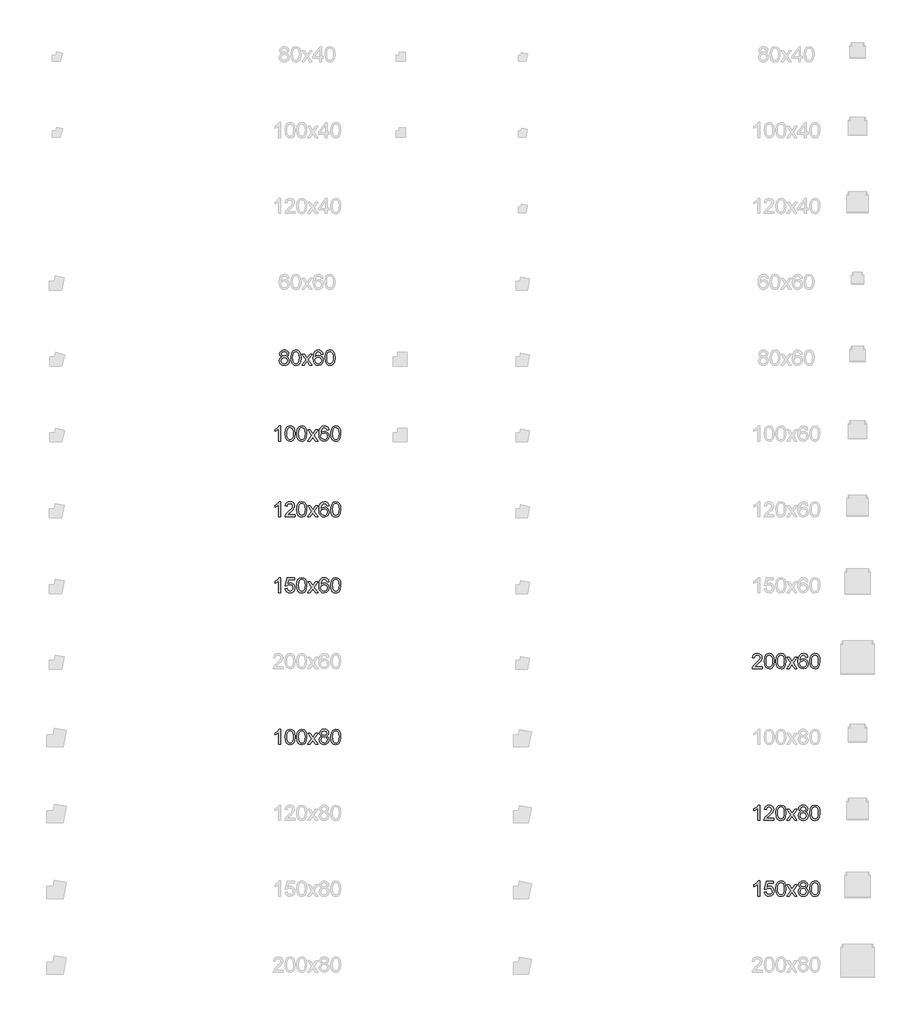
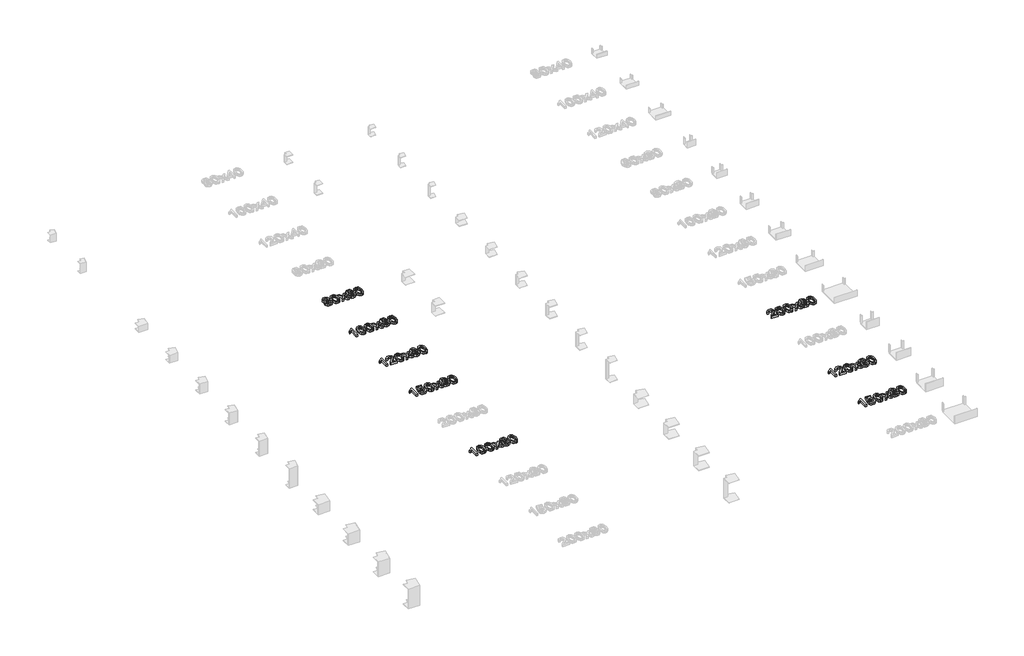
# One storey, part 16 of 28: 8 proxies.
"""IFC4 building model written with IfcOpenShell, lengths in millimetres."""

from ifc_helpers import new_model, si_unit, origin, origin_with_axes, place, context, project, spatial, polyline, outline, extrude, element, save

model = new_model("IFC4")

# Units and contexts
model_context = context("Model", 3, world=origin())
ifc_project = project(units=[si_unit("LENGTHUNIT", "METRE", prefix="MILLI")], contexts=[model_context])

# Site, building, storey
site = spatial("IfcSite", under=ifc_project)
building = spatial("IfcBuilding", under=site)
storey = spatial("IfcBuildingStorey", under=building, Name="Этаж 01", Elevation=0.0)

# Proxies
placement = place(None, origin())
element("IfcBuildingElementProxy", 1, Name="100 мм Arial", ObjectType="100 мм Arial", at=placement, inside=storey, context=model_context, shape_type="SweptSolid", body=[
    extrude(outline(polyline([(18077.1955345, -408.0058037), (18065.7544045, -400.2067054), (18062.0387963, -388.0665996), (18064.0621473, -378.2502817), (18070.1322002, -370.1384837), (18079.5683734, -364.6938302), (18091.6900851, -362.8789457), (18103.8853733, -364.7367497), (18113.4441738, -370.310162), (18119.6245913, -378.5507186), (18121.6847305, -388.4099561), (18118.0181733, -400.2434936), (18106.8958743, -408.0058037), (18120.2499907, -417.8527785), (18124.8239902, -434.1008999), (18122.5553845, -446.1061157), (18115.7495676, -456.0266668), (18105.2404053, -462.6853309), (18091.8617634, -464.9048856), (18078.4831215, -462.6761339), (18067.9739592, -455.9898786), (18061.1681423, -445.9742913), (18058.8995366, -433.7575434), (18063.6574771, -417.1292772), (18077.1955345, -408.0058037)]), holes=[polyline([(18074.5958351, -388.4344816), (18079.0472072, -398.2937191), (18092.0089162, -402.1196918), (18104.7131078, -398.3182445), (18109.1276917, -388.9985673), (18104.565955, -379.3477963), (18091.8617634, -375.4359844), (18079.1207836, -379.2619572), (18074.5958351, -388.4344816)]), polyline([(18071.4565754, -433.316085), (18073.5535028, -442.7706523), (18080.9724563, -449.8462493), (18091.9598653, -452.3478469), (18100.5069903, -451.0326687), (18106.9203997, -447.0871343), (18112.2669514, -433.7084925), (18106.7487215, -420.0723332), (18100.1881592, -416.0256312), (18091.5429323, -414.6767306), (18083.115369, -416.0072371), (18076.7663389, -419.9987568), (18071.4565754, -433.316085)])]), origin_with_axes(), (0.0, 0.0, 1.0), 20.0),
    extrude(outline(polyline([(18135.8113991, -413.9164411), (18139.5024818, -385.013179), (18150.4653652, -368.3481246), (18168.7736259, -362.8789457), (18183.4398547, -366.1163072), (18193.5688723, -375.4482472), (18199.4549843, -390.3106798), (18201.7358526, -413.9164411), (18198.0815581, -442.6970759), (18187.1554629, -459.3989185), (18178.9241032, -463.5283938), (18168.7736259, -464.9048856), (18155.7260778, -462.5136527), (18145.8177894, -455.3399538), (18138.3129967, -438.349937), (18135.8113991, -413.9164411)]), holes=[polyline([(18148.3684379, -413.8919156), (18149.8399658, -433.6441131), (18154.2545498, -445.0760461), (18160.8273748, -450.5298967), (18168.7736259, -452.3478469), (18176.719877, -450.5237653), (18183.2927019, -445.0515206), (18187.7072859, -433.6134563), (18189.1788139, -413.8919156), (18187.7563368, -394.5842423), (18183.4889057, -383.0634045), (18176.9283434, -377.3428394), (18168.6264731, -375.4359844), (18160.7660611, -377.1159789), (18154.4507535, -382.1559622), (18149.8890168, -394.3941699), (18148.3684379, -413.8919156)])]), origin_with_axes(), (0.0, 0.0, 1.0), 20.0),
    extrude(outline(polyline([(18208.014372, -463.3352558), (18234.8452322, -426.2527507), (18209.5840019, -389.562653), (18224.6916891, -389.562653), (18236.8808459, -407.2209888), (18242.5707541, -415.5596474), (18247.5003728, -408.7415677), (18261.3817868, -389.562653), (18276.489474, -389.562653), (18249.9529195, -426.2527507), (18275.5084554, -463.3352558), (18260.4007681, -463.3352558), (18245.0233007, -441.0416069), (18242.2028721, -436.9703795), (18223.1220593, -463.3352558), (18208.014372, -463.3352558)])), origin_with_axes(), (0.0, 0.0, 1.0), 20.0),
    extrude(outline(polyline([(18347.7114283, -389.562653), (18335.1543895, -391.1322829), (18330.3964491, -380.6599088), (18317.8148848, -375.4359844), (18306.4841194, -378.4771422), (18297.9124689, -389.8937468), (18294.3440135, -412.2732349), (18305.4172616, -402.2545819), (18319.13926, -398.9804321), (18330.7398056, -401.2183809), (18340.4764157, -407.9322273), (18347.0798976, -418.1900036), (18349.2810582, -431.0597421), (18345.1362543, -448.3869841), (18333.7319125, -460.6497172), (18317.2753246, -464.9048856), (18303.0290943, -462.084457), (18291.6830004, -453.6231711), (18284.2609812, -438.6871621), (18281.7869748, -416.4425641), (18284.533827, -391.4327198), (18292.7743837, -374.3323384), (18304.0254414, -365.7422938), (18318.5996998, -362.8789457), (18329.6177655, -364.6509106), (18338.440802, -369.9668054), (18344.6212196, -378.4096972), (18347.7114283, -389.562653)]), holes=[polyline([(18294.3440135, -430.8635384), (18297.2502813, -441.7405827), (18304.9758032, -449.6377828), (18316.2943059, -452.3478469), (18324.5808479, -450.9437639), (18331.0954249, -446.7315151), (18335.3168708, -440.1096392), (18336.7240194, -431.476675), (18335.3352649, -423.1901331), (18331.1690013, -416.8717598), (18324.5440597, -412.8710431), (18315.7792711, -411.5374709), (18300.5857447, -416.8717598), (18295.9044463, -423.0368489), (18294.3440135, -430.8635384)])]), origin_with_axes(), (0.0, 0.0, 1.0), 20.0),
    extrude(outline(polyline([(18360.2684671, -413.9164411), (18363.9595498, -385.013179), (18374.9224332, -368.3481246), (18393.2306938, -362.8789457), (18407.8969227, -366.1163072), (18418.0259403, -375.4482472), (18423.9120522, -390.3106798), (18426.1929206, -413.9164411), (18422.5386261, -442.6970759), (18411.6125309, -459.3989185), (18403.3811712, -463.5283938), (18393.2306938, -464.9048856), (18380.1831458, -462.5136527), (18370.2748573, -455.3399538), (18362.7700646, -438.349937), (18360.2684671, -413.9164411)]), holes=[polyline([(18372.8255058, -413.8919156), (18374.2970338, -433.6441131), (18378.7116178, -445.0760461), (18385.2844428, -450.5298967), (18393.2306938, -452.3478469), (18401.1769449, -450.5237653), (18407.7497699, -445.0515206), (18412.1643539, -433.6134563), (18413.6358818, -413.8919156), (18412.2134048, -394.5842423), (18407.9459737, -383.0634045), (18401.3854114, -377.3428394), (18393.0835411, -375.4359844), (18385.2231291, -377.1159789), (18378.9078215, -382.1559622), (18374.3460848, -394.3941699), (18372.8255058, -413.8919156)])]), origin_with_axes(), (0.0, 0.0, 1.0), 20.0),
])
element("IfcBuildingElementProxy", 2, Name="100 мм Arial", ObjectType="100 мм Arial", at=placement, inside=storey, context=model_context, shape_type="SweptSolid", body=[
    extrude(outline(polyline([(18067.5325008, -1463.3352558), (18054.975462, -1463.3352558), (18054.975462, -1385.0499672), (18043.0806108, -1393.5235158), (18029.8613845, -1399.8633489), (18029.8613845, -1387.9930232), (18048.267747, -1376.2453248), (18059.4390969, -1362.8789457), (18067.5325008, -1362.8789457), (18067.5325008, -1463.3352558)])), origin_with_axes(), (0.0, 0.0, 1.0), 20.0),
    extrude(outline(polyline([(18161.7102916, -1450.778217), (18161.7102916, -1463.3352558), (18095.785838, -1463.3352558), (18097.1347387, -1454.6777662), (18104.7621587, -1441.3481752), (18120.4829826, -1426.7923109), (18142.1634949, -1405.8720882), (18147.5836229, -1391.6473177), (18142.4700632, -1380.1326112), (18129.1159468, -1375.4359844), (18115.1977446, -1380.0222466), (18109.9125066, -1392.7019127), (18097.3554679, -1391.1322829), (18100.3996914, -1378.9860457), (18106.9817134, -1370.1139582), (18116.7581774, -1364.6876988), (18129.3857269, -1362.8789457), (18142.1052469, -1364.8900339), (18151.8633168, -1370.9232986), (18158.0713255, -1379.9364075), (18160.1406617, -1390.8870282), (18157.9088443, -1402.7941421), (18150.4898907, -1415.1059262), (18132.5004611, -1432.3105409), (18118.0549615, -1444.389333), (18112.3895787, -1450.778217), (18161.7102916, -1450.778217)])), origin_with_axes(), (0.0, 0.0, 1.0), 20.0),
    extrude(outline(polyline([(18174.2673303, -1413.9164411), (18177.958413, -1385.013179), (18188.9212965, -1368.3481246), (18207.2295571, -1362.8789457), (18221.895786, -1366.1163072), (18232.0248036, -1375.4482472), (18237.9109155, -1390.3106798), (18240.1917839, -1413.9164411), (18236.5374894, -1442.6970759), (18225.6113941, -1459.3989185), (18217.3800345, -1463.5283938), (18207.2295571, -1464.9048856), (18194.182009, -1462.5136527), (18184.2737206, -1455.3399538), (18176.7689279, -1438.349937), (18174.2673303, -1413.9164411)]), holes=[polyline([(18186.8243691, -1413.8919156), (18188.2958971, -1433.6441131), (18192.710481, -1445.0760461), (18199.283306, -1450.5298967), (18207.2295571, -1452.3478469), (18215.1758082, -1450.5237653), (18221.7486332, -1445.0515206), (18226.1632171, -1433.6134563), (18227.6347451, -1413.8919156), (18226.212268, -1394.5842423), (18221.9448369, -1383.0634045), (18215.3842746, -1377.3428394), (18207.0824043, -1375.4359844), (18199.2219923, -1377.1159789), (18192.9066847, -1382.1559622), (18188.344948, -1394.3941699), (18186.8243691, -1413.8919156)])]), origin_with_axes(), (0.0, 0.0, 1.0), 20.0),
    extrude(outline(polyline([(18246.4703032, -1463.3352558), (18273.3011634, -1426.2527507), (18248.0399331, -1389.562653), (18263.1476204, -1389.562653), (18275.3367771, -1407.2209888), (18281.0266853, -1415.5596474), (18285.9563041, -1408.7415677), (18299.837718, -1389.562653), (18314.9454053, -1389.562653), (18288.4088507, -1426.2527507), (18313.9643866, -1463.3352558), (18298.8566994, -1463.3352558), (18283.479232, -1441.0416069), (18280.6588033, -1436.9703795), (18261.5779905, -1463.3352558), (18246.4703032, -1463.3352558)])), origin_with_axes(), (0.0, 0.0, 1.0), 20.0),
    extrude(outline(polyline([(18386.1673595, -1389.562653), (18373.6103208, -1391.1322829), (18368.8523803, -1380.6599088), (18356.2708161, -1375.4359844), (18344.9400506, -1378.4771422), (18336.3684001, -1389.8937468), (18332.7999448, -1412.2732349), (18343.8731928, -1402.2545819), (18357.5951912, -1398.9804321), (18369.1957368, -1401.2183809), (18378.932347, -1407.9322273), (18385.5358288, -1418.1900036), (18387.7369894, -1431.0597421), (18383.5921856, -1448.3869841), (18372.1878437, -1460.6497172), (18355.7312558, -1464.9048856), (18341.4850255, -1462.084457), (18330.1389317, -1453.6231711), (18322.7169124, -1438.6871621), (18320.242906, -1416.4425641), (18322.9897582, -1391.4327198), (18331.2303149, -1374.3323384), (18342.4813726, -1365.7422938), (18357.055631, -1362.8789457), (18368.0736967, -1364.6509106), (18376.8967333, -1369.9668054), (18383.0771508, -1378.4096972), (18386.1673595, -1389.562653)]), holes=[polyline([(18332.7999448, -1430.8635384), (18335.7062125, -1441.7405827), (18343.4317344, -1449.6377828), (18354.7502372, -1452.3478469), (18363.0367791, -1450.9437639), (18369.5513561, -1446.7315151), (18373.772802, -1440.1096392), (18375.1799506, -1431.476675), (18373.7911961, -1423.1901331), (18369.6249325, -1416.8717598), (18362.9999909, -1412.8710431), (18354.2352024, -1411.5374709), (18339.041676, -1416.8717598), (18334.3603776, -1423.0368489), (18332.7999448, -1430.8635384)])]), origin_with_axes(), (0.0, 0.0, 1.0), 20.0),
    extrude(outline(polyline([(18398.7243983, -1413.9164411), (18402.415481, -1385.013179), (18413.3783645, -1368.3481246), (18431.6866251, -1362.8789457), (18446.352854, -1366.1163072), (18456.4818716, -1375.4482472), (18462.3679835, -1390.3106798), (18464.6488518, -1413.9164411), (18460.9945574, -1442.6970759), (18450.0684621, -1459.3989185), (18441.8371025, -1463.5283938), (18431.6866251, -1464.9048856), (18418.639077, -1462.5136527), (18408.7307886, -1455.3399538), (18401.2259959, -1438.349937), (18398.7243983, -1413.9164411)]), holes=[polyline([(18411.2814371, -1413.8919156), (18412.7529651, -1433.6441131), (18417.167549, -1445.0760461), (18423.740374, -1450.5298967), (18431.6866251, -1452.3478469), (18439.6328762, -1450.5237653), (18446.2057012, -1445.0515206), (18450.6202851, -1433.6134563), (18452.0918131, -1413.8919156), (18450.669336, -1394.5842423), (18446.4019049, -1383.0634045), (18439.8413426, -1377.3428394), (18431.5394723, -1375.4359844), (18423.6790603, -1377.1159789), (18417.3637527, -1382.1559622), (18412.802016, -1394.3941699), (18411.2814371, -1413.8919156)])]), origin_with_axes(), (0.0, 0.0, 1.0), 20.0),
])
element("IfcBuildingElementProxy", 3, Name="100 мм Arial", ObjectType="100 мм Arial", at=placement, inside=storey, context=model_context, shape_type="SweptSolid", body=[
    extrude(outline(polyline([(18067.5325008, -1963.3352558), (18054.975462, -1963.3352558), (18054.975462, -1885.0499672), (18043.0806108, -1893.5235158), (18029.8613845, -1899.8633489), (18029.8613845, -1887.9930232), (18048.267747, -1876.2453248), (18059.4390969, -1862.8789457), (18067.5325008, -1862.8789457), (18067.5325008, -1963.3352558)])), origin_with_axes(), (0.0, 0.0, 1.0), 20.0),
    extrude(outline(polyline([(18097.3554679, -1936.6515484), (18109.9125066, -1935.0819186), (18116.2400769, -1948.0191021), (18129.3612014, -1952.3478469), (18138.3620476, -1950.8425964), (18145.1065508, -1946.3268449), (18149.3187997, -1939.3217586), (18150.7228826, -1930.3485036), (18145.4621701, -1915.43702), (18138.8556226, -1911.3351358), (18129.5574052, -1909.967841), (18118.5332081, -1912.1506075), (18111.4821365, -1917.8159903), (18098.9250977, -1916.2463604), (18109.9125066, -1864.4485755), (18158.5710319, -1864.4485755), (18158.5710319, -1877.0056143), (18120.0660497, -1877.0056143), (18114.6949726, -1904.6703403), (18123.6651619, -1899.2256868), (18133.0645469, -1897.4108023), (18144.7969168, -1899.6610138), (18154.5365926, -1906.4116484), (18161.0940892, -1916.7000815), (18163.2799214, -1929.5636886), (18161.3117527, -1942.1207274), (18155.4072467, -1952.8628817), (18144.1010067, -1961.8943847), (18129.3121505, -1964.9048856), (18116.9789066, -1962.9704395), (18107.1533917, -1957.167101), (18100.4180855, -1948.1693206), (18097.3554679, -1936.6515484)])), origin_with_axes(), (0.0, 0.0, 1.0), 20.0),
    extrude(outline(polyline([(18174.2673303, -1913.9164411), (18177.958413, -1885.013179), (18188.9212965, -1868.3481246), (18207.2295571, -1862.8789457), (18221.895786, -1866.1163072), (18232.0248036, -1875.4482472), (18237.9109155, -1890.3106798), (18240.1917839, -1913.9164411), (18236.5374894, -1942.6970759), (18225.6113941, -1959.3989185), (18217.3800345, -1963.5283938), (18207.2295571, -1964.9048856), (18194.182009, -1962.5136527), (18184.2737206, -1955.3399538), (18176.7689279, -1938.349937), (18174.2673303, -1913.9164411)]), holes=[polyline([(18186.8243691, -1913.8919156), (18188.2958971, -1933.6441131), (18192.710481, -1945.0760461), (18199.283306, -1950.5298967), (18207.2295571, -1952.3478469), (18215.1758082, -1950.5237653), (18221.7486332, -1945.0515206), (18226.1632171, -1933.6134563), (18227.6347451, -1913.8919156), (18226.212268, -1894.5842423), (18221.9448369, -1883.0634045), (18215.3842746, -1877.3428394), (18207.0824043, -1875.4359844), (18199.2219923, -1877.1159789), (18192.9066847, -1882.1559622), (18188.344948, -1894.3941699), (18186.8243691, -1913.8919156)])]), origin_with_axes(), (0.0, 0.0, 1.0), 20.0),
    extrude(outline(polyline([(18246.4703032, -1963.3352558), (18273.3011634, -1926.2527507), (18248.0399331, -1889.562653), (18263.1476204, -1889.562653), (18275.3367771, -1907.2209888), (18281.0266853, -1915.5596474), (18285.9563041, -1908.7415677), (18299.837718, -1889.562653), (18314.9454053, -1889.562653), (18288.4088507, -1926.2527507), (18313.9643866, -1963.3352558), (18298.8566994, -1963.3352558), (18283.479232, -1941.0416069), (18280.6588033, -1936.9703795), (18261.5779905, -1963.3352558), (18246.4703032, -1963.3352558)])), origin_with_axes(), (0.0, 0.0, 1.0), 20.0),
    extrude(outline(polyline([(18386.1673595, -1889.562653), (18373.6103208, -1891.1322829), (18368.8523803, -1880.6599088), (18356.2708161, -1875.4359844), (18344.9400506, -1878.4771422), (18336.3684001, -1889.8937468), (18332.7999448, -1912.2732349), (18343.8731928, -1902.2545819), (18357.5951912, -1898.9804321), (18369.1957368, -1901.2183809), (18378.932347, -1907.9322273), (18385.5358288, -1918.1900036), (18387.7369894, -1931.0597421), (18383.5921856, -1948.3869841), (18372.1878437, -1960.6497172), (18355.7312558, -1964.9048856), (18341.4850255, -1962.084457), (18330.1389317, -1953.6231711), (18322.7169124, -1938.6871621), (18320.242906, -1916.4425641), (18322.9897582, -1891.4327198), (18331.2303149, -1874.3323384), (18342.4813726, -1865.7422938), (18357.055631, -1862.8789457), (18368.0736967, -1864.6509106), (18376.8967333, -1869.9668054), (18383.0771508, -1878.4096972), (18386.1673595, -1889.562653)]), holes=[polyline([(18332.7999448, -1930.8635384), (18335.7062125, -1941.7405827), (18343.4317344, -1949.6377828), (18354.7502372, -1952.3478469), (18363.0367791, -1950.9437639), (18369.5513561, -1946.7315151), (18373.772802, -1940.1096392), (18375.1799506, -1931.476675), (18373.7911961, -1923.1901331), (18369.6249325, -1916.8717598), (18362.9999909, -1912.8710431), (18354.2352024, -1911.5374709), (18339.041676, -1916.8717598), (18334.3603776, -1923.0368489), (18332.7999448, -1930.8635384)])]), origin_with_axes(), (0.0, 0.0, 1.0), 20.0),
    extrude(outline(polyline([(18398.7243983, -1913.9164411), (18402.415481, -1885.013179), (18413.3783645, -1868.3481246), (18431.6866251, -1862.8789457), (18446.352854, -1866.1163072), (18456.4818716, -1875.4482472), (18462.3679835, -1890.3106798), (18464.6488518, -1913.9164411), (18460.9945574, -1942.6970759), (18450.0684621, -1959.3989185), (18441.8371025, -1963.5283938), (18431.6866251, -1964.9048856), (18418.639077, -1962.5136527), (18408.7307886, -1955.3399538), (18401.2259959, -1938.349937), (18398.7243983, -1913.9164411)]), holes=[polyline([(18411.2814371, -1913.8919156), (18412.7529651, -1933.6441131), (18417.167549, -1945.0760461), (18423.740374, -1950.5298967), (18431.6866251, -1952.3478469), (18439.6328762, -1950.5237653), (18446.2057012, -1945.0515206), (18450.6202851, -1933.6134563), (18452.0918131, -1913.8919156), (18450.669336, -1894.5842423), (18446.4019049, -1883.0634045), (18439.8413426, -1877.3428394), (18431.5394723, -1875.4359844), (18423.6790603, -1877.1159789), (18417.3637527, -1882.1559622), (18412.802016, -1894.3941699), (18411.2814371, -1913.8919156)])]), origin_with_axes(), (0.0, 0.0, 1.0), 20.0),
])
element("IfcBuildingElementProxy", 4, Name="100 мм Arial", ObjectType="100 мм Arial", at=placement, inside=storey, context=model_context, shape_type="SweptSolid", body=[
    extrude(outline(polyline([(18067.5325008, -2963.3352558), (18054.975462, -2963.3352558), (18054.975462, -2885.0499672), (18043.0806108, -2893.5235158), (18029.8613845, -2899.8633489), (18029.8613845, -2887.9930232), (18048.267747, -2876.2453248), (18059.4390969, -2862.8789457), (18067.5325008, -2862.8789457), (18067.5325008, -2963.3352558)])), origin_with_axes(), (0.0, 0.0, 1.0), 20.0),
    extrude(outline(polyline([(18097.3554679, -2913.9164411), (18101.0465505, -2885.013179), (18112.009434, -2868.3481246), (18130.3176946, -2862.8789457), (18144.9839235, -2866.1163072), (18155.1129411, -2875.4482472), (18160.999053, -2890.3106798), (18163.2799214, -2913.9164411), (18159.6256269, -2942.6970759), (18148.6995317, -2959.3989185), (18140.468172, -2963.5283938), (18130.3176946, -2964.9048856), (18117.2701465, -2962.5136527), (18107.3618581, -2955.3399538), (18099.8570654, -2938.349937), (18097.3554679, -2913.9164411)]), holes=[polyline([(18109.9125066, -2913.8919156), (18111.3840346, -2933.6441131), (18115.7986186, -2945.0760461), (18122.3714435, -2950.5298967), (18130.3176946, -2952.3478469), (18138.2639457, -2950.5237653), (18144.8367707, -2945.0515206), (18149.2513546, -2933.6134563), (18150.7228826, -2913.8919156), (18149.3004056, -2894.5842423), (18145.0329744, -2883.0634045), (18138.4724122, -2877.3428394), (18130.1705418, -2875.4359844), (18122.3101299, -2877.1159789), (18115.9948223, -2882.1559622), (18111.4330855, -2894.3941699), (18109.9125066, -2913.8919156)])]), origin_with_axes(), (0.0, 0.0, 1.0), 20.0),
    extrude(outline(polyline([(18174.2673303, -2913.9164411), (18177.958413, -2885.013179), (18188.9212965, -2868.3481246), (18207.2295571, -2862.8789457), (18221.895786, -2866.1163072), (18232.0248036, -2875.4482472), (18237.9109155, -2890.3106798), (18240.1917839, -2913.9164411), (18236.5374894, -2942.6970759), (18225.6113941, -2959.3989185), (18217.3800345, -2963.5283938), (18207.2295571, -2964.9048856), (18194.182009, -2962.5136527), (18184.2737206, -2955.3399538), (18176.7689279, -2938.349937), (18174.2673303, -2913.9164411)]), holes=[polyline([(18186.8243691, -2913.8919156), (18188.2958971, -2933.6441131), (18192.710481, -2945.0760461), (18199.283306, -2950.5298967), (18207.2295571, -2952.3478469), (18215.1758082, -2950.5237653), (18221.7486332, -2945.0515206), (18226.1632171, -2933.6134563), (18227.6347451, -2913.8919156), (18226.212268, -2894.5842423), (18221.9448369, -2883.0634045), (18215.3842746, -2877.3428394), (18207.0824043, -2875.4359844), (18199.2219923, -2877.1159789), (18192.9066847, -2882.1559622), (18188.344948, -2894.3941699), (18186.8243691, -2913.8919156)])]), origin_with_axes(), (0.0, 0.0, 1.0), 20.0),
    extrude(outline(polyline([(18246.4703032, -2963.3352558), (18273.3011634, -2926.2527507), (18248.0399331, -2889.562653), (18263.1476204, -2889.562653), (18275.3367771, -2907.2209888), (18281.0266853, -2915.5596474), (18285.9563041, -2908.7415677), (18299.837718, -2889.562653), (18314.9454053, -2889.562653), (18288.4088507, -2926.2527507), (18313.9643866, -2963.3352558), (18298.8566994, -2963.3352558), (18283.479232, -2941.0416069), (18280.6588033, -2936.9703795), (18261.5779905, -2963.3352558), (18246.4703032, -2963.3352558)])), origin_with_axes(), (0.0, 0.0, 1.0), 20.0),
    extrude(outline(polyline([(18340.1085337, -2908.0058037), (18328.6674037, -2900.2067054), (18324.9517955, -2888.0665996), (18326.9751465, -2878.2502817), (18333.0451994, -2870.1384837), (18342.4813726, -2864.6938302), (18354.6030844, -2862.8789457), (18366.7983725, -2864.7367497), (18376.357173, -2870.310162), (18382.5375905, -2878.5507186), (18384.5977297, -2888.4099561), (18380.9311725, -2900.2434936), (18369.8088735, -2908.0058037), (18383.1629899, -2917.8527785), (18387.7369894, -2934.1008999), (18385.4683838, -2946.1061157), (18378.6625668, -2956.0266668), (18368.1534045, -2962.6853309), (18354.7747626, -2964.9048856), (18341.3961207, -2962.6761339), (18330.8869584, -2955.9898786), (18324.0811415, -2945.9742913), (18321.8125359, -2933.7575434), (18326.5704763, -2917.1292772), (18340.1085337, -2908.0058037)]), holes=[polyline([(18334.3695746, -2933.316085), (18336.466502, -2942.7706523), (18343.8854556, -2949.8462493), (18354.8728645, -2952.3478469), (18363.4199895, -2951.0326687), (18369.833399, -2947.0871343), (18375.1799506, -2933.7084925), (18369.6617207, -2920.0723332), (18363.1011584, -2916.0256312), (18354.4559316, -2914.6767306), (18346.0283682, -2916.0072371), (18339.6793381, -2919.9987568), (18334.3695746, -2933.316085)]), polyline([(18337.5088343, -2888.4344816), (18341.9602065, -2898.2937191), (18354.9219154, -2902.1196918), (18367.626107, -2898.3182445), (18372.0406909, -2888.9985673), (18367.4789542, -2879.3477963), (18354.7747626, -2875.4359844), (18342.0337829, -2879.2619572), (18337.5088343, -2888.4344816)])]), origin_with_axes(), (0.0, 0.0, 1.0), 20.0),
    extrude(outline(polyline([(18398.7243983, -2913.9164411), (18402.415481, -2885.013179), (18413.3783645, -2868.3481246), (18431.6866251, -2862.8789457), (18446.352854, -2866.1163072), (18456.4818716, -2875.4482472), (18462.3679835, -2890.3106798), (18464.6488518, -2913.9164411), (18460.9945574, -2942.6970759), (18450.0684621, -2959.3989185), (18441.8371025, -2963.5283938), (18431.6866251, -2964.9048856), (18418.639077, -2962.5136527), (18408.7307886, -2955.3399538), (18401.2259959, -2938.349937), (18398.7243983, -2913.9164411)]), holes=[polyline([(18411.2814371, -2913.8919156), (18412.7529651, -2933.6441131), (18417.167549, -2945.0760461), (18423.740374, -2950.5298967), (18431.6866251, -2952.3478469), (18439.6328762, -2950.5237653), (18446.2057012, -2945.0515206), (18450.6202851, -2933.6134563), (18452.0918131, -2913.8919156), (18450.669336, -2894.5842423), (18446.4019049, -2883.0634045), (18439.8413426, -2877.3428394), (18431.5394723, -2875.4359844), (18423.6790603, -2877.1159789), (18417.3637527, -2882.1559622), (18412.802016, -2894.3941699), (18411.2814371, -2913.8919156)])]), origin_with_axes(), (0.0, 0.0, 1.0), 20.0),
])
element("IfcBuildingElementProxy", 5, Name="100 мм Arial", ObjectType="100 мм Arial", at=placement, inside=storey, context=model_context, shape_type="SweptSolid", body=[
    extrude(outline(polyline([(18067.5325008, -963.3352558), (18054.975462, -963.3352558), (18054.975462, -885.0499672), (18043.0806108, -893.5235158), (18029.8613845, -899.8633489), (18029.8613845, -887.9930232), (18048.267747, -876.2453248), (18059.4390969, -862.8789457), (18067.5325008, -862.8789457), (18067.5325008, -963.3352558)])), origin_with_axes(), (0.0, 0.0, 1.0), 20.0),
    extrude(outline(polyline([(18097.3554679, -913.9164411), (18101.0465505, -885.013179), (18112.009434, -868.3481246), (18130.3176946, -862.8789457), (18144.9839235, -866.1163072), (18155.1129411, -875.4482472), (18160.999053, -890.3106798), (18163.2799214, -913.9164411), (18159.6256269, -942.6970759), (18148.6995317, -959.3989185), (18140.468172, -963.5283938), (18130.3176946, -964.9048856), (18117.2701465, -962.5136527), (18107.3618581, -955.3399538), (18099.8570654, -938.349937), (18097.3554679, -913.9164411)]), holes=[polyline([(18109.9125066, -913.8919156), (18111.3840346, -933.6441131), (18115.7986186, -945.0760461), (18122.3714435, -950.5298967), (18130.3176946, -952.3478469), (18138.2639457, -950.5237653), (18144.8367707, -945.0515206), (18149.2513546, -933.6134563), (18150.7228826, -913.8919156), (18149.3004056, -894.5842423), (18145.0329744, -883.0634045), (18138.4724122, -877.3428394), (18130.1705418, -875.4359844), (18122.3101299, -877.1159789), (18115.9948223, -882.1559622), (18111.4330855, -894.3941699), (18109.9125066, -913.8919156)])]), origin_with_axes(), (0.0, 0.0, 1.0), 20.0),
    extrude(outline(polyline([(18174.2673303, -913.9164411), (18177.958413, -885.013179), (18188.9212965, -868.3481246), (18207.2295571, -862.8789457), (18221.895786, -866.1163072), (18232.0248036, -875.4482472), (18237.9109155, -890.3106798), (18240.1917839, -913.9164411), (18236.5374894, -942.6970759), (18225.6113941, -959.3989185), (18217.3800345, -963.5283938), (18207.2295571, -964.9048856), (18194.182009, -962.5136527), (18184.2737206, -955.3399538), (18176.7689279, -938.349937), (18174.2673303, -913.9164411)]), holes=[polyline([(18186.8243691, -913.8919156), (18188.2958971, -933.6441131), (18192.710481, -945.0760461), (18199.283306, -950.5298967), (18207.2295571, -952.3478469), (18215.1758082, -950.5237653), (18221.7486332, -945.0515206), (18226.1632171, -933.6134563), (18227.6347451, -913.8919156), (18226.212268, -894.5842423), (18221.9448369, -883.0634045), (18215.3842746, -877.3428394), (18207.0824043, -875.4359844), (18199.2219923, -877.1159789), (18192.9066847, -882.1559622), (18188.344948, -894.3941699), (18186.8243691, -913.8919156)])]), origin_with_axes(), (0.0, 0.0, 1.0), 20.0),
    extrude(outline(polyline([(18246.4703032, -963.3352558), (18273.3011634, -926.2527507), (18248.0399331, -889.562653), (18263.1476204, -889.562653), (18275.3367771, -907.2209888), (18281.0266853, -915.5596474), (18285.9563041, -908.7415677), (18299.837718, -889.562653), (18314.9454053, -889.562653), (18288.4088507, -926.2527507), (18313.9643866, -963.3352558), (18298.8566994, -963.3352558), (18283.479232, -941.0416069), (18280.6588033, -936.9703795), (18261.5779905, -963.3352558), (18246.4703032, -963.3352558)])), origin_with_axes(), (0.0, 0.0, 1.0), 20.0),
    extrude(outline(polyline([(18386.1673595, -889.562653), (18373.6103208, -891.1322829), (18368.8523803, -880.6599088), (18356.2708161, -875.4359844), (18344.9400506, -878.4771422), (18336.3684001, -889.8937468), (18332.7999448, -912.2732349), (18343.8731928, -902.2545819), (18357.5951912, -898.9804321), (18369.1957368, -901.2183809), (18378.932347, -907.9322273), (18385.5358288, -918.1900036), (18387.7369894, -931.0597421), (18383.5921856, -948.3869841), (18372.1878437, -960.6497172), (18355.7312558, -964.9048856), (18341.4850255, -962.084457), (18330.1389317, -953.6231711), (18322.7169124, -938.6871621), (18320.242906, -916.4425641), (18322.9897582, -891.4327198), (18331.2303149, -874.3323384), (18342.4813726, -865.7422938), (18357.055631, -862.8789457), (18368.0736967, -864.6509106), (18376.8967333, -869.9668054), (18383.0771508, -878.4096972), (18386.1673595, -889.562653)]), holes=[polyline([(18332.7999448, -930.8635384), (18335.7062125, -941.7405827), (18343.4317344, -949.6377828), (18354.7502372, -952.3478469), (18363.0367791, -950.9437639), (18369.5513561, -946.7315151), (18373.772802, -940.1096392), (18375.1799506, -931.476675), (18373.7911961, -923.1901331), (18369.6249325, -916.8717598), (18362.9999909, -912.8710431), (18354.2352024, -911.5374709), (18339.041676, -916.8717598), (18334.3603776, -923.0368489), (18332.7999448, -930.8635384)])]), origin_with_axes(), (0.0, 0.0, 1.0), 20.0),
    extrude(outline(polyline([(18398.7243983, -913.9164411), (18402.415481, -885.013179), (18413.3783645, -868.3481246), (18431.6866251, -862.8789457), (18446.352854, -866.1163072), (18456.4818716, -875.4482472), (18462.3679835, -890.3106798), (18464.6488518, -913.9164411), (18460.9945574, -942.6970759), (18450.0684621, -959.3989185), (18441.8371025, -963.5283938), (18431.6866251, -964.9048856), (18418.639077, -962.5136527), (18408.7307886, -955.3399538), (18401.2259959, -938.349937), (18398.7243983, -913.9164411)]), holes=[polyline([(18411.2814371, -913.8919156), (18412.7529651, -933.6441131), (18417.167549, -945.0760461), (18423.740374, -950.5298967), (18431.6866251, -952.3478469), (18439.6328762, -950.5237653), (18446.2057012, -945.0515206), (18450.6202851, -933.6134563), (18452.0918131, -913.8919156), (18450.669336, -894.5842423), (18446.4019049, -883.0634045), (18439.8413426, -877.3428394), (18431.5394723, -875.4359844), (18423.6790603, -877.1159789), (18417.3637527, -882.1559622), (18412.802016, -894.3941699), (18411.2814371, -913.8919156)])]), origin_with_axes(), (0.0, 0.0, 1.0), 20.0),
])
element("IfcBuildingElementProxy", 6, Name="100 мм Arial", ObjectType="100 мм Arial", at=placement, inside=storey, context=model_context, shape_type="SweptSolid", body=[
    extrude(outline(polyline([(21244.7984291, -2450.778217), (21244.7984291, -2463.3352558), (21178.8739756, -2463.3352558), (21180.2228762, -2454.6777662), (21187.8502962, -2441.3481752), (21203.5711202, -2426.7923109), (21225.2516324, -2405.8720882), (21230.6717605, -2391.6473177), (21225.5582007, -2380.1326112), (21212.2040843, -2375.4359844), (21198.2858822, -2380.0222466), (21193.0006442, -2392.7019127), (21180.4436054, -2391.1322829), (21183.4878289, -2378.9860457), (21190.0698509, -2370.1139582), (21199.846315, -2364.6876988), (21212.4738644, -2362.8789457), (21225.1933844, -2364.8900339), (21234.9514544, -2370.9232986), (21241.159463, -2379.9364075), (21243.2287992, -2390.8870282), (21240.9969818, -2402.7941421), (21233.5780282, -2415.1059262), (21215.5885987, -2432.3105409), (21201.143099, -2444.389333), (21195.4777163, -2450.778217), (21244.7984291, -2450.778217)])), origin_with_axes(), (0.0, 0.0, 1.0), 20.0),
    extrude(outline(polyline([(21257.3554679, -2413.9164411), (21261.0465505, -2385.013179), (21272.009434, -2368.3481246), (21290.3176946, -2362.8789457), (21304.9839235, -2366.1163072), (21315.1129411, -2375.4482472), (21320.999053, -2390.3106798), (21323.2799214, -2413.9164411), (21319.6256269, -2442.6970759), (21308.6995317, -2459.3989185), (21300.468172, -2463.5283938), (21290.3176946, -2464.9048856), (21277.2701465, -2462.5136527), (21267.3618581, -2455.3399538), (21259.8570654, -2438.349937), (21257.3554679, -2413.9164411)]), holes=[polyline([(21269.9125066, -2413.8919156), (21271.3840346, -2433.6441131), (21275.7986186, -2445.0760461), (21282.3714435, -2450.5298967), (21290.3176946, -2452.3478469), (21298.2639457, -2450.5237653), (21304.8367707, -2445.0515206), (21309.2513546, -2433.6134563), (21310.7228826, -2413.8919156), (21309.3004056, -2394.5842423), (21305.0329744, -2383.0634045), (21298.4724122, -2377.3428394), (21290.1705418, -2375.4359844), (21282.3101299, -2377.1159789), (21275.9948223, -2382.1559622), (21271.4330855, -2394.3941699), (21269.9125066, -2413.8919156)])]), origin_with_axes(), (0.0, 0.0, 1.0), 20.0),
    extrude(outline(polyline([(21334.2673303, -2413.9164411), (21337.958413, -2385.013179), (21348.9212965, -2368.3481246), (21367.2295571, -2362.8789457), (21381.895786, -2366.1163072), (21392.0248036, -2375.4482472), (21397.9109155, -2390.3106798), (21400.1917839, -2413.9164411), (21396.5374894, -2442.6970759), (21385.6113941, -2459.3989185), (21377.3800345, -2463.5283938), (21367.2295571, -2464.9048856), (21354.182009, -2462.5136527), (21344.2737206, -2455.3399538), (21336.7689279, -2438.349937), (21334.2673303, -2413.9164411)]), holes=[polyline([(21346.8243691, -2413.8919156), (21348.2958971, -2433.6441131), (21352.710481, -2445.0760461), (21359.283306, -2450.5298967), (21367.2295571, -2452.3478469), (21375.1758082, -2450.5237653), (21381.7486332, -2445.0515206), (21386.1632171, -2433.6134563), (21387.6347451, -2413.8919156), (21386.212268, -2394.5842423), (21381.9448369, -2383.0634045), (21375.3842746, -2377.3428394), (21367.0824043, -2375.4359844), (21359.2219923, -2377.1159789), (21352.9066847, -2382.1559622), (21348.344948, -2394.3941699), (21346.8243691, -2413.8919156)])]), origin_with_axes(), (0.0, 0.0, 1.0), 20.0),
    extrude(outline(polyline([(21406.4703032, -2463.3352558), (21433.3011634, -2426.2527507), (21408.0399331, -2389.562653), (21423.1476204, -2389.562653), (21435.3367771, -2407.2209888), (21441.0266853, -2415.5596474), (21445.9563041, -2408.7415677), (21459.837718, -2389.562653), (21474.9454053, -2389.562653), (21448.4088507, -2426.2527507), (21473.9643866, -2463.3352558), (21458.8566994, -2463.3352558), (21443.479232, -2441.0416069), (21440.6588033, -2436.9703795), (21421.5779905, -2463.3352558), (21406.4703032, -2463.3352558)])), origin_with_axes(), (0.0, 0.0, 1.0), 20.0),
    extrude(outline(polyline([(21546.1673595, -2389.562653), (21533.6103208, -2391.1322829), (21528.8523803, -2380.6599088), (21516.2708161, -2375.4359844), (21504.9400506, -2378.4771422), (21496.3684001, -2389.8937468), (21492.7999448, -2412.2732349), (21503.8731928, -2402.2545819), (21517.5951912, -2398.9804321), (21529.1957368, -2401.2183809), (21538.932347, -2407.9322273), (21545.5358288, -2418.1900036), (21547.7369894, -2431.0597421), (21543.5921856, -2448.3869841), (21532.1878437, -2460.6497172), (21515.7312558, -2464.9048856), (21501.4850255, -2462.084457), (21490.1389317, -2453.6231711), (21482.7169124, -2438.6871621), (21480.242906, -2416.4425641), (21482.9897582, -2391.4327198), (21491.2303149, -2374.3323384), (21502.4813726, -2365.7422938), (21517.055631, -2362.8789457), (21528.0736967, -2364.6509106), (21536.8967333, -2369.9668054), (21543.0771508, -2378.4096972), (21546.1673595, -2389.562653)]), holes=[polyline([(21492.7999448, -2430.8635384), (21495.7062125, -2441.7405827), (21503.4317344, -2449.6377828), (21514.7502372, -2452.3478469), (21523.0367791, -2450.9437639), (21529.5513561, -2446.7315151), (21533.772802, -2440.1096392), (21535.1799506, -2431.476675), (21533.7911961, -2423.1901331), (21529.6249325, -2416.8717598), (21522.9999909, -2412.8710431), (21514.2352024, -2411.5374709), (21499.041676, -2416.8717598), (21494.3603776, -2423.0368489), (21492.7999448, -2430.8635384)])]), origin_with_axes(), (0.0, 0.0, 1.0), 20.0),
    extrude(outline(polyline([(21558.7243983, -2413.9164411), (21562.415481, -2385.013179), (21573.3783645, -2368.3481246), (21591.6866251, -2362.8789457), (21606.352854, -2366.1163072), (21616.4818716, -2375.4482472), (21622.3679835, -2390.3106798), (21624.6488518, -2413.9164411), (21620.9945574, -2442.6970759), (21610.0684621, -2459.3989185), (21601.8371025, -2463.5283938), (21591.6866251, -2464.9048856), (21578.639077, -2462.5136527), (21568.7307886, -2455.3399538), (21561.2259959, -2438.349937), (21558.7243983, -2413.9164411)]), holes=[polyline([(21571.2814371, -2413.8919156), (21572.7529651, -2433.6441131), (21577.167549, -2445.0760461), (21583.740374, -2450.5298967), (21591.6866251, -2452.3478469), (21599.6328762, -2450.5237653), (21606.2057012, -2445.0515206), (21610.6202851, -2433.6134563), (21612.0918131, -2413.8919156), (21610.669336, -2394.5842423), (21606.4019049, -2383.0634045), (21599.8413426, -2377.3428394), (21591.5394723, -2375.4359844), (21583.6790603, -2377.1159789), (21577.3637527, -2382.1559622), (21572.802016, -2394.3941699), (21571.2814371, -2413.8919156)])]), origin_with_axes(), (0.0, 0.0, 1.0), 20.0),
])
element("IfcBuildingElementProxy", 7, Name="100 мм Arial", ObjectType="100 мм Arial", at=placement, inside=storey, context=model_context, shape_type="SweptSolid", body=[
    extrude(outline(polyline([(21227.5325008, -3463.3352558), (21214.975462, -3463.3352558), (21214.975462, -3385.0499672), (21203.0806108, -3393.5235158), (21189.8613845, -3399.8633489), (21189.8613845, -3387.9930232), (21208.267747, -3376.2453248), (21219.4390969, -3362.8789457), (21227.5325008, -3362.8789457), (21227.5325008, -3463.3352558)])), origin_with_axes(), (0.0, 0.0, 1.0), 20.0),
    extrude(outline(polyline([(21321.7102916, -3450.778217), (21321.7102916, -3463.3352558), (21255.785838, -3463.3352558), (21257.1347387, -3454.6777662), (21264.7621587, -3441.3481752), (21280.4829826, -3426.7923109), (21302.1634949, -3405.8720882), (21307.5836229, -3391.6473177), (21302.4700632, -3380.1326112), (21289.1159468, -3375.4359844), (21275.1977446, -3380.0222466), (21269.9125066, -3392.7019127), (21257.3554679, -3391.1322829), (21260.3996914, -3378.9860457), (21266.9817134, -3370.1139582), (21276.7581774, -3364.6876988), (21289.3857269, -3362.8789457), (21302.1052469, -3364.8900339), (21311.8633168, -3370.9232986), (21318.0713255, -3379.9364075), (21320.1406617, -3390.8870282), (21317.9088443, -3402.7941421), (21310.4898907, -3415.1059262), (21292.5004611, -3432.3105409), (21278.0549615, -3444.389333), (21272.3895787, -3450.778217), (21321.7102916, -3450.778217)])), origin_with_axes(), (0.0, 0.0, 1.0), 20.0),
    extrude(outline(polyline([(21334.2673303, -3413.9164411), (21337.958413, -3385.013179), (21348.9212965, -3368.3481246), (21367.2295571, -3362.8789457), (21381.895786, -3366.1163072), (21392.0248036, -3375.4482472), (21397.9109155, -3390.3106798), (21400.1917839, -3413.9164411), (21396.5374894, -3442.6970759), (21385.6113941, -3459.3989185), (21377.3800345, -3463.5283938), (21367.2295571, -3464.9048856), (21354.182009, -3462.5136527), (21344.2737206, -3455.3399538), (21336.7689279, -3438.349937), (21334.2673303, -3413.9164411)]), holes=[polyline([(21346.8243691, -3413.8919156), (21348.2958971, -3433.6441131), (21352.710481, -3445.0760461), (21359.283306, -3450.5298967), (21367.2295571, -3452.3478469), (21375.1758082, -3450.5237653), (21381.7486332, -3445.0515206), (21386.1632171, -3433.6134563), (21387.6347451, -3413.8919156), (21386.212268, -3394.5842423), (21381.9448369, -3383.0634045), (21375.3842746, -3377.3428394), (21367.0824043, -3375.4359844), (21359.2219923, -3377.1159789), (21352.9066847, -3382.1559622), (21348.344948, -3394.3941699), (21346.8243691, -3413.8919156)])]), origin_with_axes(), (0.0, 0.0, 1.0), 20.0),
    extrude(outline(polyline([(21406.4703032, -3463.3352558), (21433.3011634, -3426.2527507), (21408.0399331, -3389.562653), (21423.1476204, -3389.562653), (21435.3367771, -3407.2209888), (21441.0266853, -3415.5596474), (21445.9563041, -3408.7415677), (21459.837718, -3389.562653), (21474.9454053, -3389.562653), (21448.4088507, -3426.2527507), (21473.9643866, -3463.3352558), (21458.8566994, -3463.3352558), (21443.479232, -3441.0416069), (21440.6588033, -3436.9703795), (21421.5779905, -3463.3352558), (21406.4703032, -3463.3352558)])), origin_with_axes(), (0.0, 0.0, 1.0), 20.0),
    extrude(outline(polyline([(21500.1085337, -3408.0058037), (21488.6674037, -3400.2067054), (21484.9517955, -3388.0665996), (21486.9751465, -3378.2502817), (21493.0451994, -3370.1384837), (21502.4813726, -3364.6938302), (21514.6030844, -3362.8789457), (21526.7983725, -3364.7367497), (21536.357173, -3370.310162), (21542.5375905, -3378.5507186), (21544.5977297, -3388.4099561), (21540.9311725, -3400.2434936), (21529.8088735, -3408.0058037), (21543.1629899, -3417.8527785), (21547.7369894, -3434.1008999), (21545.4683838, -3446.1061157), (21538.6625668, -3456.0266668), (21528.1534045, -3462.6853309), (21514.7747626, -3464.9048856), (21501.3961207, -3462.6761339), (21490.8869584, -3455.9898786), (21484.0811415, -3445.9742913), (21481.8125359, -3433.7575434), (21486.5704763, -3417.1292772), (21500.1085337, -3408.0058037)]), holes=[polyline([(21497.5088343, -3388.4344816), (21501.9602065, -3398.2937191), (21514.9219154, -3402.1196918), (21527.626107, -3398.3182445), (21532.0406909, -3388.9985673), (21527.4789542, -3379.3477963), (21514.7747626, -3375.4359844), (21502.0337829, -3379.2619572), (21497.5088343, -3388.4344816)]), polyline([(21494.3695746, -3433.316085), (21496.466502, -3442.7706523), (21503.8854556, -3449.8462493), (21514.8728645, -3452.3478469), (21523.4199895, -3451.0326687), (21529.833399, -3447.0871343), (21535.1799506, -3433.7084925), (21529.6617207, -3420.0723332), (21523.1011584, -3416.0256312), (21514.4559316, -3414.6767306), (21506.0283682, -3416.0072371), (21499.6793381, -3419.9987568), (21494.3695746, -3433.316085)])]), origin_with_axes(), (0.0, 0.0, 1.0), 20.0),
    extrude(outline(polyline([(21558.7243983, -3413.9164411), (21562.415481, -3385.013179), (21573.3783645, -3368.3481246), (21591.6866251, -3362.8789457), (21606.352854, -3366.1163072), (21616.4818716, -3375.4482472), (21622.3679835, -3390.3106798), (21624.6488518, -3413.9164411), (21620.9945574, -3442.6970759), (21610.0684621, -3459.3989185), (21601.8371025, -3463.5283938), (21591.6866251, -3464.9048856), (21578.639077, -3462.5136527), (21568.7307886, -3455.3399538), (21561.2259959, -3438.349937), (21558.7243983, -3413.9164411)]), holes=[polyline([(21571.2814371, -3413.8919156), (21572.7529651, -3433.6441131), (21577.167549, -3445.0760461), (21583.740374, -3450.5298967), (21591.6866251, -3452.3478469), (21599.6328762, -3450.5237653), (21606.2057012, -3445.0515206), (21610.6202851, -3433.6134563), (21612.0918131, -3413.8919156), (21610.669336, -3394.5842423), (21606.4019049, -3383.0634045), (21599.8413426, -3377.3428394), (21591.5394723, -3375.4359844), (21583.6790603, -3377.1159789), (21577.3637527, -3382.1559622), (21572.802016, -3394.3941699), (21571.2814371, -3413.8919156)])]), origin_with_axes(), (0.0, 0.0, 1.0), 20.0),
])
element("IfcBuildingElementProxy", 8, Name="100 мм Arial", ObjectType="100 мм Arial", at=placement, inside=storey, context=model_context, shape_type="SweptSolid", body=[
    extrude(outline(polyline([(21227.5325008, -3963.3352558), (21214.975462, -3963.3352558), (21214.975462, -3885.0499672), (21203.0806108, -3893.5235158), (21189.8613845, -3899.8633489), (21189.8613845, -3887.9930232), (21208.267747, -3876.2453248), (21219.4390969, -3862.8789457), (21227.5325008, -3862.8789457), (21227.5325008, -3963.3352558)])), origin_with_axes(), (0.0, 0.0, 1.0), 20.0),
    extrude(outline(polyline([(21257.3554679, -3936.6515484), (21269.9125066, -3935.0819186), (21276.2400769, -3948.0191021), (21289.3612014, -3952.3478469), (21298.3620476, -3950.8425964), (21305.1065508, -3946.3268449), (21309.3187997, -3939.3217586), (21310.7228826, -3930.3485036), (21305.4621701, -3915.43702), (21298.8556226, -3911.3351358), (21289.5574052, -3909.967841), (21278.5332081, -3912.1506075), (21271.4821365, -3917.8159903), (21258.9250977, -3916.2463604), (21269.9125066, -3864.4485755), (21318.5710319, -3864.4485755), (21318.5710319, -3877.0056143), (21280.0660497, -3877.0056143), (21274.6949726, -3904.6703403), (21283.6651619, -3899.2256868), (21293.0645469, -3897.4108023), (21304.7969168, -3899.6610138), (21314.5365926, -3906.4116484), (21321.0940892, -3916.7000815), (21323.2799214, -3929.5636886), (21321.3117527, -3942.1207274), (21315.4072467, -3952.8628817), (21304.1010067, -3961.8943847), (21289.3121505, -3964.9048856), (21276.9789066, -3962.9704395), (21267.1533917, -3957.167101), (21260.4180855, -3948.1693206), (21257.3554679, -3936.6515484)])), origin_with_axes(), (0.0, 0.0, 1.0), 20.0),
    extrude(outline(polyline([(21334.2673303, -3913.9164411), (21337.958413, -3885.013179), (21348.9212965, -3868.3481246), (21367.2295571, -3862.8789457), (21381.895786, -3866.1163072), (21392.0248036, -3875.4482472), (21397.9109155, -3890.3106798), (21400.1917839, -3913.9164411), (21396.5374894, -3942.6970759), (21385.6113941, -3959.3989185), (21377.3800345, -3963.5283938), (21367.2295571, -3964.9048856), (21354.182009, -3962.5136527), (21344.2737206, -3955.3399538), (21336.7689279, -3938.349937), (21334.2673303, -3913.9164411)]), holes=[polyline([(21346.8243691, -3913.8919156), (21348.2958971, -3933.6441131), (21352.710481, -3945.0760461), (21359.283306, -3950.5298967), (21367.2295571, -3952.3478469), (21375.1758082, -3950.5237653), (21381.7486332, -3945.0515206), (21386.1632171, -3933.6134563), (21387.6347451, -3913.8919156), (21386.212268, -3894.5842423), (21381.9448369, -3883.0634045), (21375.3842746, -3877.3428394), (21367.0824043, -3875.4359844), (21359.2219923, -3877.1159789), (21352.9066847, -3882.1559622), (21348.344948, -3894.3941699), (21346.8243691, -3913.8919156)])]), origin_with_axes(), (0.0, 0.0, 1.0), 20.0),
    extrude(outline(polyline([(21406.4703032, -3963.3352558), (21433.3011634, -3926.2527507), (21408.0399331, -3889.562653), (21423.1476204, -3889.562653), (21435.3367771, -3907.2209888), (21441.0266853, -3915.5596474), (21445.9563041, -3908.7415677), (21459.837718, -3889.562653), (21474.9454053, -3889.562653), (21448.4088507, -3926.2527507), (21473.9643866, -3963.3352558), (21458.8566994, -3963.3352558), (21443.479232, -3941.0416069), (21440.6588033, -3936.9703795), (21421.5779905, -3963.3352558), (21406.4703032, -3963.3352558)])), origin_with_axes(), (0.0, 0.0, 1.0), 20.0),
    extrude(outline(polyline([(21500.1085337, -3908.0058037), (21488.6674037, -3900.2067054), (21484.9517955, -3888.0665996), (21486.9751465, -3878.2502817), (21493.0451994, -3870.1384837), (21502.4813726, -3864.6938302), (21514.6030844, -3862.8789457), (21526.7983725, -3864.7367497), (21536.357173, -3870.310162), (21542.5375905, -3878.5507186), (21544.5977297, -3888.4099561), (21540.9311725, -3900.2434936), (21529.8088735, -3908.0058037), (21543.1629899, -3917.8527785), (21547.7369894, -3934.1008999), (21545.4683838, -3946.1061157), (21538.6625668, -3956.0266668), (21528.1534045, -3962.6853309), (21514.7747626, -3964.9048856), (21501.3961207, -3962.6761339), (21490.8869584, -3955.9898786), (21484.0811415, -3945.9742913), (21481.8125359, -3933.7575434), (21486.5704763, -3917.1292772), (21500.1085337, -3908.0058037)]), holes=[polyline([(21494.3695746, -3933.316085), (21496.466502, -3942.7706523), (21503.8854556, -3949.8462493), (21514.8728645, -3952.3478469), (21523.4199895, -3951.0326687), (21529.833399, -3947.0871343), (21535.1799506, -3933.7084925), (21529.6617207, -3920.0723332), (21523.1011584, -3916.0256312), (21514.4559316, -3914.6767306), (21506.0283682, -3916.0072371), (21499.6793381, -3919.9987568), (21494.3695746, -3933.316085)]), polyline([(21497.5088343, -3888.4344816), (21501.9602065, -3898.2937191), (21514.9219154, -3902.1196918), (21527.626107, -3898.3182445), (21532.0406909, -3888.9985673), (21527.4789542, -3879.3477963), (21514.7747626, -3875.4359844), (21502.0337829, -3879.2619572), (21497.5088343, -3888.4344816)])]), origin_with_axes(), (0.0, 0.0, 1.0), 20.0),
    extrude(outline(polyline([(21558.7243983, -3913.9164411), (21562.415481, -3885.013179), (21573.3783645, -3868.3481246), (21591.6866251, -3862.8789457), (21606.352854, -3866.1163072), (21616.4818716, -3875.4482472), (21622.3679835, -3890.3106798), (21624.6488518, -3913.9164411), (21620.9945574, -3942.6970759), (21610.0684621, -3959.3989185), (21601.8371025, -3963.5283938), (21591.6866251, -3964.9048856), (21578.639077, -3962.5136527), (21568.7307886, -3955.3399538), (21561.2259959, -3938.349937), (21558.7243983, -3913.9164411)]), holes=[polyline([(21571.2814371, -3913.8919156), (21572.7529651, -3933.6441131), (21577.167549, -3945.0760461), (21583.740374, -3950.5298967), (21591.6866251, -3952.3478469), (21599.6328762, -3950.5237653), (21606.2057012, -3945.0515206), (21610.6202851, -3933.6134563), (21612.0918131, -3913.8919156), (21610.669336, -3894.5842423), (21606.4019049, -3883.0634045), (21599.8413426, -3877.3428394), (21591.5394723, -3875.4359844), (21583.6790603, -3877.1159789), (21577.3637527, -3882.1559622), (21572.802016, -3894.3941699), (21571.2814371, -3913.8919156)])]), origin_with_axes(), (0.0, 0.0, 1.0), 20.0),
])

save(model, "model.ifc")
